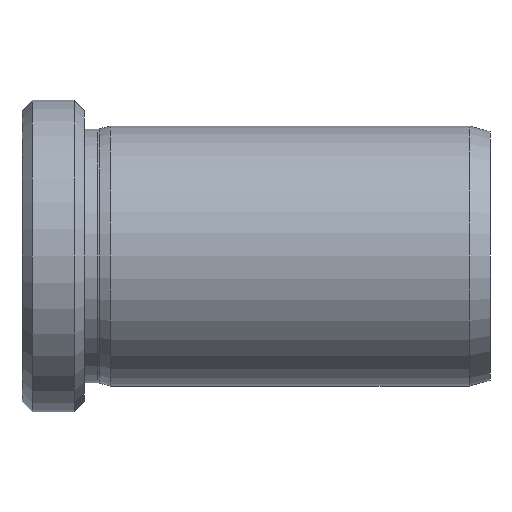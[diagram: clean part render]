
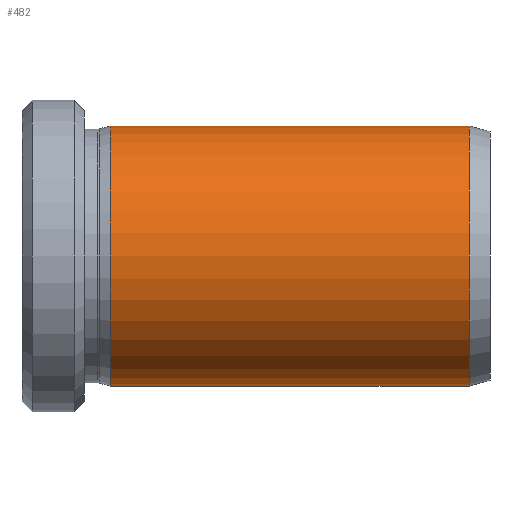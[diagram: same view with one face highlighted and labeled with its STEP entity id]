
A CAD part, front view. The second image highlights one B-rep face of the part: STEP entity #482.
In plain terms, the highlighted cylindrical face has radius 12.5 mm (diameter 25 mm), a partial arc.
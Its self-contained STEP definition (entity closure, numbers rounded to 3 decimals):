
#18 = LINE ( 'NONE', #551, #126 ) ;
#48 = CARTESIAN_POINT ( 'NONE',  ( 19.3, 0., 0. ) ) ;
#62 = DIRECTION ( 'NONE',  ( 0., 0., 1. ) ) ;
#92 = CARTESIAN_POINT ( 'NONE',  ( 19.3, 0., 12.5 ) ) ;
#95 = VECTOR ( 'NONE', #351, 1000. ) ;
#114 = VERTEX_POINT ( 'NONE', #408 ) ;
#126 = VECTOR ( 'NONE', #617, 1000. ) ;
#137 = VERTEX_POINT ( 'NONE', #498 ) ;
#153 = AXIS2_PLACEMENT_3D ( 'NONE', #193, #170, #236 ) ;
#170 = DIRECTION ( 'NONE',  ( -1., 0., 0. ) ) ;
#174 = EDGE_CURVE ( 'NONE', #114, #436, #325, .T. ) ;
#193 = CARTESIAN_POINT ( 'NONE',  ( 53.8, 0., 0. ) ) ;
#198 = DIRECTION ( 'NONE',  ( -1., 0., 0. ) ) ;
#217 = LINE ( 'NONE', #389, #95 ) ;
#231 = CARTESIAN_POINT ( 'NONE',  ( 53.8, 0., 12.5 ) ) ;
#235 = ORIENTED_EDGE ( 'NONE', *, *, #336, .T. ) ;
#236 = DIRECTION ( 'NONE',  ( 0., 0., 1. ) ) ;
#237 = CIRCLE ( 'NONE', #508, 12.5 ) ;
#252 = CARTESIAN_POINT ( 'NONE',  ( 0., 0., 0. ) ) ;
#267 = CYLINDRICAL_SURFACE ( 'NONE', #340, 12.5 ) ;
#302 = DIRECTION ( 'NONE',  ( 0., 0., 1. ) ) ;
#325 = CIRCLE ( 'NONE', #153, 12.5 ) ;
#336 = EDGE_CURVE ( 'NONE', #436, #547, #217, .T. ) ;
#337 = EDGE_CURVE ( 'NONE', #137, #547, #237, .T. ) ;
#340 = AXIS2_PLACEMENT_3D ( 'NONE', #252, #592, #302 ) ;
#351 = DIRECTION ( 'NONE',  ( -1., 0., 0. ) ) ;
#389 = CARTESIAN_POINT ( 'NONE',  ( 0., 0., 12.5 ) ) ;
#408 = CARTESIAN_POINT ( 'NONE',  ( 53.8, 0., -12.5 ) ) ;
#431 = FACE_OUTER_BOUND ( 'NONE', #449, .T. ) ;
#436 = VERTEX_POINT ( 'NONE', #231 ) ;
#449 = EDGE_LOOP ( 'NONE', ( #536, #632, #235, #559 ) ) ;
#482 = ADVANCED_FACE ( 'NONE', ( #431 ), #267, .T. ) ;
#498 = CARTESIAN_POINT ( 'NONE',  ( 19.3, 0., -12.5 ) ) ;
#508 = AXIS2_PLACEMENT_3D ( 'NONE', #48, #198, #62 ) ;
#514 = EDGE_CURVE ( 'NONE', #114, #137, #18, .T. ) ;
#536 = ORIENTED_EDGE ( 'NONE', *, *, #514, .F. ) ;
#547 = VERTEX_POINT ( 'NONE', #92 ) ;
#551 = CARTESIAN_POINT ( 'NONE',  ( 0., 0., -12.5 ) ) ;
#559 = ORIENTED_EDGE ( 'NONE', *, *, #337, .F. ) ;
#592 = DIRECTION ( 'NONE',  ( -1., 0., 0. ) ) ;
#617 = DIRECTION ( 'NONE',  ( -1., 0., 0. ) ) ;
#632 = ORIENTED_EDGE ( 'NONE', *, *, #174, .T. ) ;
